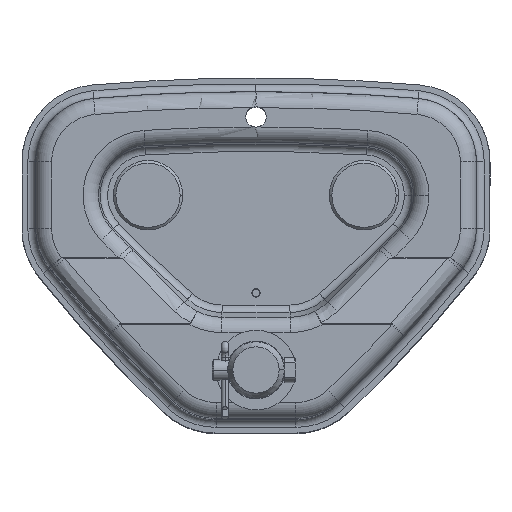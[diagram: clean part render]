
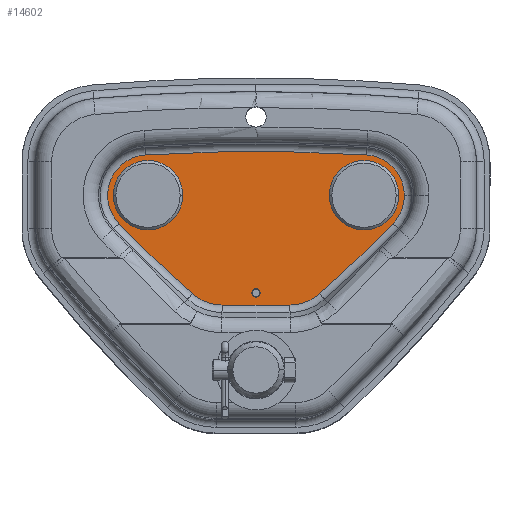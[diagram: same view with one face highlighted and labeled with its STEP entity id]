
A CAD part, top view. The second image highlights one B-rep face of the part: STEP entity #14602.
In plain terms, the highlighted planar face has unit normal (0, 0, 1).
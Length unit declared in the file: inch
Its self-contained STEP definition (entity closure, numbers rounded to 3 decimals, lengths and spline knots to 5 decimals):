
#28 = DIRECTION ( 'NONE',  ( 0., 0., 1. ) ) ;
#354 = EDGE_CURVE ( 'NONE', #2255, #30546, #14109, .T. ) ;
#963 = CARTESIAN_POINT ( 'NONE',  ( -1.65354, 2.67717, 0.12598 ) ) ;
#1194 = CIRCLE ( 'NONE', #11939, 0.06496 ) ;
#1443 = CARTESIAN_POINT ( 'NONE',  ( 0.9733, 1.17088, 0.12598 ) ) ;
#1622 = EDGE_CURVE ( 'NONE', #24383, #21187, #31393, .T. ) ;
#2094 = AXIS2_PLACEMENT_3D ( 'NONE', #27396, #10923, #11636 ) ;
#2254 = DIRECTION ( 'NONE',  ( 1., 0., 0. ) ) ;
#2255 = VERTEX_POINT ( 'NONE', #21522 ) ;
#2546 = DIRECTION ( 'NONE',  ( 1., 0., 0. ) ) ;
#2591 = CIRCLE ( 'NONE', #5455, 27.46843 ) ;
#2613 = AXIS2_PLACEMENT_3D ( 'NONE', #32486, #28, #11552 ) ;
#2714 = AXIS2_PLACEMENT_3D ( 'NONE', #19094, #27056, #29917 ) ;
#2780 = CARTESIAN_POINT ( 'NONE',  ( 1.6916, 3.29402, 0.12598 ) ) ;
#2879 = CARTESIAN_POINT ( 'NONE',  ( 0.51181, 1.69291, 0.12598 ) ) ;
#3586 = FACE_OUTER_BOUND ( 'NONE', #12488, .T. ) ;
#3646 = CARTESIAN_POINT ( 'NONE',  ( 1.65354, 2.67717, 0.12598 ) ) ;
#3697 = CIRCLE ( 'NONE', #24053, 0.61803 ) ;
#3942 = DIRECTION ( 'NONE',  ( 1., 0., 0. ) ) ;
#4028 = AXIS2_PLACEMENT_3D ( 'NONE', #27907, #20287, #33628 ) ;
#4359 = CARTESIAN_POINT ( 'NONE',  ( 0., 1.1811, 0.12598 ) ) ;
#5024 = DIRECTION ( 'NONE',  ( 0., 0., 1. ) ) ;
#5169 = CARTESIAN_POINT ( 'NONE',  ( -1.65354, 2.67717, 0.12598 ) ) ;
#5455 = AXIS2_PLACEMENT_3D ( 'NONE', #6117, #8223, #2546 ) ;
#6117 = CARTESIAN_POINT ( 'NONE',  ( 0., -24.12226, 0.12598 ) ) ;
#6126 = DIRECTION ( 'NONE',  ( 0., 0., 1. ) ) ;
#6521 = AXIS2_PLACEMENT_3D ( 'NONE', #14885, #6946, #9428 ) ;
#6696 = VERTEX_POINT ( 'NONE', #7529 ) ;
#6946 = DIRECTION ( 'NONE',  ( 0., 0., 1. ) ) ;
#7257 = VERTEX_POINT ( 'NONE', #27047 ) ;
#7487 = DIRECTION ( 'NONE',  ( 1., 0., 0. ) ) ;
#7529 = CARTESIAN_POINT ( 'NONE',  ( -0.9733, 1.17088, 0.12598 ) ) ;
#7713 = DIRECTION ( 'NONE',  ( 1., 0., 0. ) ) ;
#8019 = EDGE_CURVE ( 'NONE', #21945, #21260, #31287, .T. ) ;
#8223 = DIRECTION ( 'NONE',  ( 0., 0., 1. ) ) ;
#8496 = ORIENTED_EDGE ( 'NONE', *, *, #14452, .T. ) ;
#8749 = FACE_BOUND ( 'NONE', #30005, .T. ) ;
#8839 = AXIS2_PLACEMENT_3D ( 'NONE', #963, #6126, #14066 ) ;
#9219 = VERTEX_POINT ( 'NONE', #1443 ) ;
#9259 = FACE_BOUND ( 'NONE', #24360, .T. ) ;
#9313 = DIRECTION ( 'NONE',  ( 0., 0., 1. ) ) ;
#9423 = EDGE_CURVE ( 'NONE', #30546, #10151, #3697, .T. ) ;
#9428 = DIRECTION ( 'NONE',  ( 1., 0., 0. ) ) ;
#9497 = DIRECTION ( 'NONE',  ( 1., 0., 0. ) ) ;
#10151 = VERTEX_POINT ( 'NONE', #2780 ) ;
#10458 = EDGE_CURVE ( 'NONE', #21187, #24383, #24101, .T. ) ;
#10474 = DIRECTION ( 'NONE',  ( 1., 0., 0. ) ) ;
#10670 = CARTESIAN_POINT ( 'NONE',  ( 1.65354, 2.67717, 0.12598 ) ) ;
#10686 = DIRECTION ( 'NONE',  ( 0., 0., 1. ) ) ;
#10923 = DIRECTION ( 'NONE',  ( 0., 0., 1. ) ) ;
#11006 = CARTESIAN_POINT ( 'NONE',  ( 1.24016, 2.67717, 0.12598 ) ) ;
#11552 = DIRECTION ( 'NONE',  ( 1., 0., 0. ) ) ;
#11571 = FACE_BOUND ( 'NONE', #29125, .T. ) ;
#11636 = DIRECTION ( 'NONE',  ( 1., 0., 0. ) ) ;
#11910 = EDGE_CURVE ( 'NONE', #9219, #2255, #25165, .T. ) ;
#11939 = AXIS2_PLACEMENT_3D ( 'NONE', #4359, #9313, #9497 ) ;
#12173 = ORIENTED_EDGE ( 'NONE', *, *, #11910, .T. ) ;
#12488 = EDGE_LOOP ( 'NONE', ( #12173, #12820, #14417, #22309, #21324, #20322, #25496, #23092, #8496 ) ) ;
#12712 = DIRECTION ( 'NONE',  ( 0., 0., 1. ) ) ;
#12787 = CIRCLE ( 'NONE', #2613, 0.06496 ) ;
#12820 = ORIENTED_EDGE ( 'NONE', *, *, #354, .T. ) ;
#13084 = ORIENTED_EDGE ( 'NONE', *, *, #21608, .F. ) ;
#13170 = CARTESIAN_POINT ( 'NONE',  ( 1.65354, 2.67717, 0.12598 ) ) ;
#13476 = CIRCLE ( 'NONE', #2714, 47.15347 ) ;
#14066 = DIRECTION ( 'NONE',  ( 1., 0., 0. ) ) ;
#14106 = DIRECTION ( 'NONE',  ( 0., 0., 1. ) ) ;
#14109 = CIRCLE ( 'NONE', #32252, 0.61803 ) ;
#14417 = ORIENTED_EDGE ( 'NONE', *, *, #9423, .T. ) ;
#14452 = EDGE_CURVE ( 'NONE', #17028, #9219, #31473, .T. ) ;
#14602 = ADVANCED_FACE ( 'NONE', ( #11571, #8749, #9259, #3586 ), #19879, .T. ) ;
#14885 = CARTESIAN_POINT ( 'NONE',  ( -12.00459, 15.85131, 0.12598 ) ) ;
#16430 = EDGE_CURVE ( 'NONE', #10151, #25809, #2591, .T. ) ;
#16507 = AXIS2_PLACEMENT_3D ( 'NONE', #10670, #5024, #7487 ) ;
#17028 = VERTEX_POINT ( 'NONE', #17078 ) ;
#17078 = CARTESIAN_POINT ( 'NONE',  ( 0.51949, 0.99618, 0.12598 ) ) ;
#17080 = EDGE_CURVE ( 'NONE', #6696, #19029, #33277, .T. ) ;
#17637 = AXIS2_PLACEMENT_3D ( 'NONE', #3646, #14106, #22092 ) ;
#17777 = DIRECTION ( 'NONE',  ( 0., 0., 1. ) ) ;
#17868 = ORIENTED_EDGE ( 'NONE', *, *, #34481, .F. ) ;
#18248 = DIRECTION ( 'NONE',  ( 0., 0., 1. ) ) ;
#18585 = EDGE_CURVE ( 'NONE', #19029, #17028, #13476, .T. ) ;
#18990 = CARTESIAN_POINT ( 'NONE',  ( -0.51949, 0.99618, 0.12598 ) ) ;
#19029 = VERTEX_POINT ( 'NONE', #18990 ) ;
#19094 = CARTESIAN_POINT ( 'NONE',  ( 0., 48.14679, 0.12598 ) ) ;
#19296 = CIRCLE ( 'NONE', #4028, 0.61803 ) ;
#19559 = AXIS2_PLACEMENT_3D ( 'NONE', #2879, #24492, #7713 ) ;
#19879 = PLANE ( 'NONE',  #33177 ) ;
#20058 = DIRECTION ( 'NONE',  ( 0., 0., 1. ) ) ;
#20176 = ORIENTED_EDGE ( 'NONE', *, *, #24081, .F. ) ;
#20287 = DIRECTION ( 'NONE',  ( 0., 0., 1. ) ) ;
#20322 = ORIENTED_EDGE ( 'NONE', *, *, #32722, .T. ) ;
#20451 = CARTESIAN_POINT ( 'NONE',  ( 1.65354, 2.67717, 0.12598 ) ) ;
#20609 = AXIS2_PLACEMENT_3D ( 'NONE', #5169, #18248, #10474 ) ;
#20630 = DIRECTION ( 'NONE',  ( 1., 0., 0. ) ) ;
#21187 = VERTEX_POINT ( 'NONE', #28753 ) ;
#21260 = VERTEX_POINT ( 'NONE', #11006 ) ;
#21324 = ORIENTED_EDGE ( 'NONE', *, *, #24119, .T. ) ;
#21522 = CARTESIAN_POINT ( 'NONE',  ( 2.09837, 2.2481, 0.12598 ) ) ;
#21608 = EDGE_CURVE ( 'NONE', #21260, #21945, #32984, .T. ) ;
#21945 = VERTEX_POINT ( 'NONE', #23078 ) ;
#22092 = DIRECTION ( 'NONE',  ( 1., 0., 0. ) ) ;
#22309 = ORIENTED_EDGE ( 'NONE', *, *, #16430, .T. ) ;
#22566 = ORIENTED_EDGE ( 'NONE', *, *, #10458, .F. ) ;
#23078 = CARTESIAN_POINT ( 'NONE',  ( 2.06693, 2.67717, 0.12598 ) ) ;
#23092 = ORIENTED_EDGE ( 'NONE', *, *, #18585, .T. ) ;
#24053 = AXIS2_PLACEMENT_3D ( 'NONE', #20451, #17777, #20630 ) ;
#24081 = EDGE_CURVE ( 'NONE', #26555, #27097, #1194, .T. ) ;
#24101 = CIRCLE ( 'NONE', #8839, 0.41339 ) ;
#24112 = CARTESIAN_POINT ( 'NONE',  ( 2.27158, 2.67717, 0.12598 ) ) ;
#24119 = EDGE_CURVE ( 'NONE', #25809, #7257, #19296, .T. ) ;
#24360 = EDGE_LOOP ( 'NONE', ( #22566, #29663 ) ) ;
#24370 = ORIENTED_EDGE ( 'NONE', *, *, #8019, .F. ) ;
#24383 = VERTEX_POINT ( 'NONE', #27001 ) ;
#24492 = DIRECTION ( 'NONE',  ( 0., 0., 1. ) ) ;
#25165 = CIRCLE ( 'NONE', #6521, 19.59441 ) ;
#25496 = ORIENTED_EDGE ( 'NONE', *, *, #17080, .T. ) ;
#25809 = VERTEX_POINT ( 'NONE', #30683 ) ;
#26415 = CIRCLE ( 'NONE', #29268, 19.59441 ) ;
#26555 = VERTEX_POINT ( 'NONE', #29567 ) ;
#27001 = CARTESIAN_POINT ( 'NONE',  ( -2.06693, 2.67717, 0.12598 ) ) ;
#27047 = CARTESIAN_POINT ( 'NONE',  ( -2.09837, 2.2481, 0.12598 ) ) ;
#27056 = DIRECTION ( 'NONE',  ( 0., 0., 1. ) ) ;
#27097 = VERTEX_POINT ( 'NONE', #29452 ) ;
#27396 = CARTESIAN_POINT ( 'NONE',  ( -0.51181, 1.69291, 0.12598 ) ) ;
#27907 = CARTESIAN_POINT ( 'NONE',  ( -1.65354, 2.67717, 0.12598 ) ) ;
#28753 = CARTESIAN_POINT ( 'NONE',  ( -1.24016, 2.67717, 0.12598 ) ) ;
#29125 = EDGE_LOOP ( 'NONE', ( #20176, #17868 ) ) ;
#29268 = AXIS2_PLACEMENT_3D ( 'NONE', #32236, #12712, #2254 ) ;
#29452 = CARTESIAN_POINT ( 'NONE',  ( -0.06496, 1.1811, 0.12598 ) ) ;
#29567 = CARTESIAN_POINT ( 'NONE',  ( 0.06496, 1.1811, 0.12598 ) ) ;
#29663 = ORIENTED_EDGE ( 'NONE', *, *, #1622, .F. ) ;
#29917 = DIRECTION ( 'NONE',  ( 1., 0., 0. ) ) ;
#30005 = EDGE_LOOP ( 'NONE', ( #24370, #13084 ) ) ;
#30546 = VERTEX_POINT ( 'NONE', #24112 ) ;
#30683 = CARTESIAN_POINT ( 'NONE',  ( -1.6916, 3.29402, 0.12598 ) ) ;
#30708 = CARTESIAN_POINT ( 'NONE',  ( 0., 0., 0.12598 ) ) ;
#31287 = CIRCLE ( 'NONE', #16507, 0.41339 ) ;
#31393 = CIRCLE ( 'NONE', #20609, 0.41339 ) ;
#31473 = CIRCLE ( 'NONE', #19559, 0.69677 ) ;
#31806 = DIRECTION ( 'NONE',  ( 1., 0., 0. ) ) ;
#32236 = CARTESIAN_POINT ( 'NONE',  ( 12.00459, 15.85131, 0.12598 ) ) ;
#32252 = AXIS2_PLACEMENT_3D ( 'NONE', #13170, #10686, #31806 ) ;
#32486 = CARTESIAN_POINT ( 'NONE',  ( 0., 1.1811, 0.12598 ) ) ;
#32722 = EDGE_CURVE ( 'NONE', #7257, #6696, #26415, .T. ) ;
#32984 = CIRCLE ( 'NONE', #17637, 0.41339 ) ;
#33177 = AXIS2_PLACEMENT_3D ( 'NONE', #30708, #20058, #3942 ) ;
#33277 = CIRCLE ( 'NONE', #2094, 0.69677 ) ;
#33628 = DIRECTION ( 'NONE',  ( 1., 0., 0. ) ) ;
#34481 = EDGE_CURVE ( 'NONE', #27097, #26555, #12787, .T. ) ;
